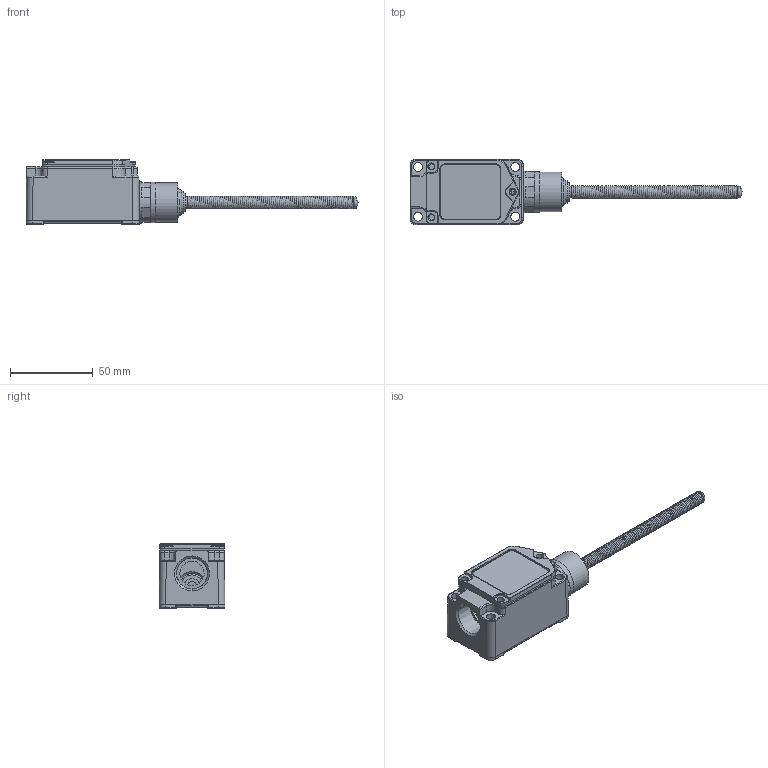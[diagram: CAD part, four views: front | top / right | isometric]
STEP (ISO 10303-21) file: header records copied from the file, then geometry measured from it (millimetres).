
FILE_DESCRIPTION(('FreeCAD Model'),'2;1');
FILE_NAME('Open CASCADE Shape Model','2026-09-09T09:17:27',(''),(''), 'Open CASCADE STEP processor 7.8','FreeCAD','Unknown');
FILE_SCHEMA(('AUTOMOTIVE_DESIGN { 1 0 10303 214 1 1 1 1 }'));
Length unit declared in the file: millimetre
Products named in the file (10): FM5106; 1; 2; 3; 4; 5; 6; 7; 8; 9
Assembly tree (9 placements, depth 2):
  FM5106
    1
    2
    3
    4
    5
    6
    7
    8
    9
Bounding box: 200.37 x 39.83 x 38.77 mm (x, y, z)
Volume: 61370.6 mm3; surface area: 40604.7 mm2
Topology: 9 solids, 9 shells, 556 faces, 1342 edges, 827 vertices
Faces by surface type: cylinder 213, plane 166, bspline 74, torus 52, cone 44, sphere 7
Full cylindrical faces by diameter (mm): 2.687 x3, 3.394 x2, 3.402 x1, 4.15 x1, 4.221 x3, 4.379 x3, 5.4 x4, 6 x1, 6.966 x4, 7 x1, 7.6 x1, 9.7 x1, 9.9 x1, 9.952 x3, 11.3 x1, 13.4 x1, 14.689 x1, 15.5 x1, 18.401 x1, 18.5 x1, 23.9 x1, 24.4 x1, 25 x1
Entity records: 56574 total; most frequent: CARTESIAN_POINT 43766, ORIENTED_EDGE 2682, DIRECTION 2553, EDGE_CURVE 1341, AXIS2_PLACEMENT_3D 1003, VERTEX_POINT 827, FACE_BOUND 605, EDGE_LOOP 605
